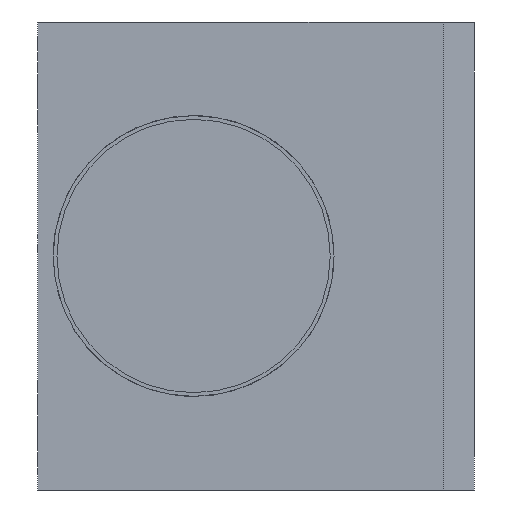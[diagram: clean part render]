
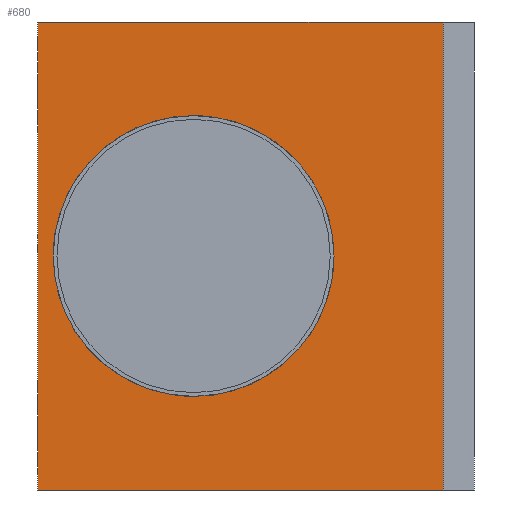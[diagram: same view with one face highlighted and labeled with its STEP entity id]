
A CAD part, left-side view. The second image highlights one B-rep face of the part: STEP entity #680.
In plain terms, the highlighted planar face has unit normal (-1, 0, 0).
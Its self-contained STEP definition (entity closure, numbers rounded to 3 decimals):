
#265=CARTESIAN_POINT('Vertex',(0.,5.,-37.5)) ;
#272=CARTESIAN_POINT('Vertex',(0.,5.,37.5)) ;
#275=CARTESIAN_POINT('Line Origine',(0.,5.,0.)) ;
#292=CARTESIAN_POINT('Line Origine',(0.,37.5,-37.5)) ;
#296=CARTESIAN_POINT('Vertex',(0.,70.,-37.5)) ;
#434=CARTESIAN_POINT('Vertex',(0.,70.,37.5)) ;
#437=CARTESIAN_POINT('Line Origine',(0.,37.5,37.5)) ;
#582=CARTESIAN_POINT('Axis2P3D Location',(0.,0.,-0.)) ;
#587=CARTESIAN_POINT('Line Origine',(0.,70.,0.)) ;
#599=CARTESIAN_POINT('Control Point',(0.,45.,22.5)) ;
#600=CARTESIAN_POINT('Control Point',(0.,46.297,22.5)) ;
#601=CARTESIAN_POINT('Control Point',(0.,47.594,22.407)) ;
#602=CARTESIAN_POINT('Control Point',(0.,48.882,22.22)) ;
#603=CARTESIAN_POINT('Control Point',(0.,52.2,21.49)) ;
#604=CARTESIAN_POINT('Control Point',(0.,55.337,20.15)) ;
#605=CARTESIAN_POINT('Control Point',(0.,57.168,19.1)) ;
#606=CARTESIAN_POINT('Control Point',(0.,60.552,16.594)) ;
#607=CARTESIAN_POINT('Control Point',(0.,63.272,13.379)) ;
#608=CARTESIAN_POINT('Control Point',(0.,64.438,11.62)) ;
#609=CARTESIAN_POINT('Control Point',(0.,66.112,8.315)) ;
#610=CARTESIAN_POINT('Control Point',(0.,67.079,4.75)) ;
#611=CARTESIAN_POINT('Control Point',(0.,67.36,3.177)) ;
#612=CARTESIAN_POINT('Control Point',(0.,67.5,1.589)) ;
#613=CARTESIAN_POINT('Control Point',(0.,67.5,0.)) ;
#614=CARTESIAN_POINT('Vertex',(0.,45.,22.5)) ;
#616=CARTESIAN_POINT('Vertex',(0.,67.5,0.)) ;
#620=CARTESIAN_POINT('Control Point',(0.,22.5,0.)) ;
#621=CARTESIAN_POINT('Control Point',(0.,22.5,2.091)) ;
#622=CARTESIAN_POINT('Control Point',(0.,22.743,4.183)) ;
#623=CARTESIAN_POINT('Control Point',(0.,23.229,6.237)) ;
#624=CARTESIAN_POINT('Control Point',(0.,24.669,10.194)) ;
#625=CARTESIAN_POINT('Control Point',(0.,26.979,13.715)) ;
#626=CARTESIAN_POINT('Control Point',(0.,28.334,15.333)) ;
#627=CARTESIAN_POINT('Control Point',(0.,31.395,18.225)) ;
#628=CARTESIAN_POINT('Control Point',(0.,35.037,20.337)) ;
#629=CARTESIAN_POINT('Control Point',(0.,36.974,21.177)) ;
#630=CARTESIAN_POINT('Control Point',(0.,39.756,22.013)) ;
#631=CARTESIAN_POINT('Control Point',(0.,42.619,22.395)) ;
#632=CARTESIAN_POINT('Control Point',(0.,43.411,22.465)) ;
#633=CARTESIAN_POINT('Control Point',(0.,44.206,22.5)) ;
#634=CARTESIAN_POINT('Control Point',(0.,45.,22.5)) ;
#635=CARTESIAN_POINT('Vertex',(0.,22.5,0.)) ;
#639=CARTESIAN_POINT('Control Point',(0.,45.,-22.5)) ;
#640=CARTESIAN_POINT('Control Point',(0.,43.703,-22.5)) ;
#641=CARTESIAN_POINT('Control Point',(0.,42.406,-22.407)) ;
#642=CARTESIAN_POINT('Control Point',(0.,41.118,-22.22)) ;
#643=CARTESIAN_POINT('Control Point',(0.,37.8,-21.49)) ;
#644=CARTESIAN_POINT('Control Point',(0.,34.663,-20.15)) ;
#645=CARTESIAN_POINT('Control Point',(0.,32.832,-19.1)) ;
#646=CARTESIAN_POINT('Control Point',(0.,29.448,-16.594)) ;
#647=CARTESIAN_POINT('Control Point',(0.,26.728,-13.379)) ;
#648=CARTESIAN_POINT('Control Point',(0.,25.562,-11.62)) ;
#649=CARTESIAN_POINT('Control Point',(0.,23.888,-8.315)) ;
#650=CARTESIAN_POINT('Control Point',(0.,22.921,-4.75)) ;
#651=CARTESIAN_POINT('Control Point',(0.,22.64,-3.177)) ;
#652=CARTESIAN_POINT('Control Point',(0.,22.5,-1.589)) ;
#653=CARTESIAN_POINT('Control Point',(0.,22.5,0.)) ;
#654=CARTESIAN_POINT('Vertex',(0.,45.,-22.5)) ;
#658=CARTESIAN_POINT('Control Point',(0.,67.5,0.)) ;
#659=CARTESIAN_POINT('Control Point',(0.,67.5,-2.091)) ;
#660=CARTESIAN_POINT('Control Point',(0.,67.257,-4.183)) ;
#661=CARTESIAN_POINT('Control Point',(0.,66.771,-6.237)) ;
#662=CARTESIAN_POINT('Control Point',(0.,65.331,-10.194)) ;
#663=CARTESIAN_POINT('Control Point',(0.,63.021,-13.715)) ;
#664=CARTESIAN_POINT('Control Point',(0.,61.666,-15.333)) ;
#665=CARTESIAN_POINT('Control Point',(0.,58.605,-18.225)) ;
#666=CARTESIAN_POINT('Control Point',(0.,54.963,-20.337)) ;
#667=CARTESIAN_POINT('Control Point',(0.,53.026,-21.177)) ;
#668=CARTESIAN_POINT('Control Point',(0.,50.244,-22.013)) ;
#669=CARTESIAN_POINT('Control Point',(0.,47.381,-22.395)) ;
#670=CARTESIAN_POINT('Control Point',(0.,46.589,-22.465)) ;
#671=CARTESIAN_POINT('Control Point',(0.,45.794,-22.5)) ;
#672=CARTESIAN_POINT('Control Point',(0.,45.,-22.5)) ;
#276=DIRECTION('Vector Direction',(0.,0.,-1.)) ;
#293=DIRECTION('Vector Direction',(0.,1.,0.)) ;
#438=DIRECTION('Vector Direction',(0.,-1.,0.)) ;
#583=DIRECTION('Axis2P3D Direction',(1.,0.,-0.)) ;
#584=DIRECTION('Axis2P3D XDirection',(-0.,0.,-1.)) ;
#588=DIRECTION('Vector Direction',(0.,0.,1.)) ;
#585=AXIS2_PLACEMENT_3D('Plane Axis2P3D',#582,#583,#584) ;
#593=ORIENTED_EDGE('',*,*,#279,.F.) ;
#594=ORIENTED_EDGE('',*,*,#441,.F.) ;
#595=ORIENTED_EDGE('',*,*,#591,.F.) ;
#596=ORIENTED_EDGE('',*,*,#298,.F.) ;
#675=ORIENTED_EDGE('',*,*,#618,.F.) ;
#676=ORIENTED_EDGE('',*,*,#637,.F.) ;
#677=ORIENTED_EDGE('',*,*,#656,.F.) ;
#678=ORIENTED_EDGE('',*,*,#673,.F.) ;
#679=FACE_BOUND('',#674,.T.) ;
#277=VECTOR('Line Direction',#276,1.) ;
#294=VECTOR('Line Direction',#293,1.) ;
#439=VECTOR('Line Direction',#438,1.) ;
#589=VECTOR('Line Direction',#588,1.) ;
#680=ADVANCED_FACE('751-040075',(#597,#679),#586,.F.) ;
#598=B_SPLINE_CURVE_WITH_KNOTS('',5,(#599,#600,#601,#602,#603,#604,#605,#606,#607,#608,#609,#610,#611,#612,#613),.UNSPECIFIED.,.F.,.U.,(6,3,3,3,6),(49.982,59.154,73.942,88.73,99.964),.UNSPECIFIED.) ;
#619=B_SPLINE_CURVE_WITH_KNOTS('',5,(#620,#621,#622,#623,#624,#625,#626,#627,#628,#629,#630,#631,#632,#633,#634),.UNSPECIFIED.,.F.,.U.,(6,3,3,3,6),(0.,14.788,29.577,44.365,49.982),.UNSPECIFIED.) ;
#638=B_SPLINE_CURVE_WITH_KNOTS('',5,(#639,#640,#641,#642,#643,#644,#645,#646,#647,#648,#649,#650,#651,#652,#653),.UNSPECIFIED.,.F.,.U.,(6,3,3,3,6),(49.982,59.154,73.942,88.73,99.964),.UNSPECIFIED.) ;
#657=B_SPLINE_CURVE_WITH_KNOTS('',5,(#658,#659,#660,#661,#662,#663,#664,#665,#666,#667,#668,#669,#670,#671,#672),.UNSPECIFIED.,.F.,.U.,(6,3,3,3,6),(0.,14.788,29.577,44.365,49.982),.UNSPECIFIED.) ;
#279=EDGE_CURVE('',#273,#266,#278,.T.) ;
#298=EDGE_CURVE('',#266,#297,#295,.T.) ;
#441=EDGE_CURVE('',#435,#273,#440,.T.) ;
#591=EDGE_CURVE('',#297,#435,#590,.T.) ;
#618=EDGE_CURVE('',#615,#617,#598,.T.) ;
#637=EDGE_CURVE('',#636,#615,#619,.T.) ;
#656=EDGE_CURVE('',#655,#636,#638,.T.) ;
#673=EDGE_CURVE('',#617,#655,#657,.T.) ;
#592=EDGE_LOOP('',(#593,#594,#595,#596)) ;
#674=EDGE_LOOP('',(#675,#676,#677,#678)) ;
#597=FACE_OUTER_BOUND('',#592,.T.) ;
#278=LINE('Line',#275,#277) ;
#295=LINE('Line',#292,#294) ;
#440=LINE('Line',#437,#439) ;
#590=LINE('Line',#587,#589) ;
#586=PLANE('Plane',#585) ;
#266=VERTEX_POINT('',#265) ;
#273=VERTEX_POINT('',#272) ;
#297=VERTEX_POINT('',#296) ;
#435=VERTEX_POINT('',#434) ;
#615=VERTEX_POINT('',#614) ;
#617=VERTEX_POINT('',#616) ;
#636=VERTEX_POINT('',#635) ;
#655=VERTEX_POINT('',#654) ;
